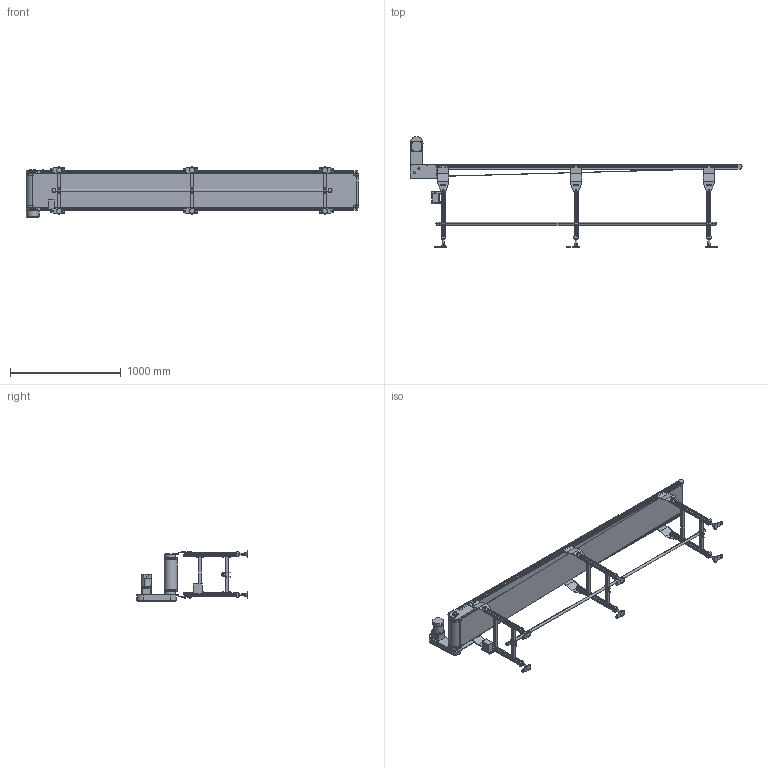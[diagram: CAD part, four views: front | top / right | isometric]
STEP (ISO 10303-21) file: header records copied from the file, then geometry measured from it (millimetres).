
FILE_DESCRIPTION( (''), '2;1');
FILE_NAME ('MB23-OD-309-300-300-R-K-100-O.stp','2025-02-17T10:57:44',(''),(''),'spGate 20.6.2 (****-****-****-****)','','');
FILE_SCHEMA (('AUTOMOTIVE_DESIGN'));
Length unit declared in the file: millimetre
Products named in the file (60): NewModel; MB23-OD-300-3000-R; TEMP_X_T-prt0; TEMP_X_T-prt1; TEMP_X_T-prt2; TEMP_X_T-prt3; TEMP_X_T-prt4; TEMP_X_T-prt5; TEMP_X_T-prt6; TEMP_X_T-prt7; TEMP_X_T-prt8; TEMP_X_T-prt9; TEMP_X_T-prt10; TEMP_X_T-prt11; TEMP_X_T-prt12; TEMP_X_T-prt13; TEMP_X_T-prt14; TEMP_X_T-prt15; TEMP_X_T-prt16; TEMP_X_T-prt17; TEMP_X_T-prt18; TEMP_X_T-prt19; TEMP_X_T-prt20; TEMP_X_T-prt21; TEMP_X_T-prt22; TEMP_X_T-prt23; TEMP_X_T-prt24; TEMP_X_T-prt25; TEMP_X_T-prt26; TEMP_X_T-prt27; TEMP_X_T-prt28; TEMP_X_T-prt29; TEMP_X_T-prt30; TEMP_X_T-prt31; TEMP_X_T-prt32; TEMP_X_T-prt33; TEMP_X_T-prt34; TEMP_X_T-prt35; TEMP_X_T-prt36; TEMP_X_T-prt37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
Assembly tree (59 placements, depth 3):
  NewModel
    MB23-OD-300-3000-R
      TEMP_X_T-prt0
      TEMP_X_T-prt1
      TEMP_X_T-prt2
      TEMP_X_T-prt3
      TEMP_X_T-prt4
      TEMP_X_T-prt5
      TEMP_X_T-prt6
      TEMP_X_T-prt7
      TEMP_X_T-prt8
      TEMP_X_T-prt9
      TEMP_X_T-prt10
      TEMP_X_T-prt11
      TEMP_X_T-prt12
      TEMP_X_T-prt13
      TEMP_X_T-prt14
      TEMP_X_T-prt15
      TEMP_X_T-prt16
      TEMP_X_T-prt17
      TEMP_X_T-prt18
      TEMP_X_T-prt19
      TEMP_X_T-prt20
      TEMP_X_T-prt21
      TEMP_X_T-prt22
      TEMP_X_T-prt23
      TEMP_X_T-prt24
      TEMP_X_T-prt25
      TEMP_X_T-prt26
      TEMP_X_T-prt27
      TEMP_X_T-prt28
      TEMP_X_T-prt29
      TEMP_X_T-prt30
      TEMP_X_T-prt31
      TEMP_X_T-prt32
      TEMP_X_T-prt33
      TEMP_X_T-prt34
      TEMP_X_T-prt35
      TEMP_X_T-prt36
      TEMP_X_T-prt37
      TEMP_X_T-prt38
      TEMP_X_T-prt39
      TEMP_X_T-prt40
      TEMP_X_T-prt41
      TEMP_X_T-prt42
      TEMP_X_T-prt43
      TEMP_X_T-prt44
      TEMP_X_T-prt45
      TEMP_X_T-prt46
      TEMP_X_T-prt47
      TEMP_X_T-prt48
      TEMP_X_T-prt49
      TEMP_X_T-prt50
      TEMP_X_T-prt51
      TEMP_X_T-prt52
      TEMP_X_T-prt53
      TEMP_X_T-prt54
      TEMP_X_T-prt55
      TEMP_X_T-prt56
      TEMP_X_T-prt57
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Bounding box: 3002.15 x 1001.79 x 453.2 mm (x, y, z)
Volume: 20337806.6 mm3; surface area: 9148036.8 mm2
Topology: 58 solids, 58 shells, 2619 faces, 6584 edges, 4259 vertices
Faces by surface type: plane 1840, cylinder 613, bspline 166
Entity records: 135949 total; most frequent: CARTESIAN_POINT 18920, ORIENTED_EDGE 13144, DIRECTION 12461, COLOUR_RGB 9249, PRESENTATION_STYLE_ASSIGNMENT 9249, STYLED_ITEM 9249, EDGE_CURVE 6572, DRAUGHTING_PRE_DEFINED_CURVE_FONT 6572
